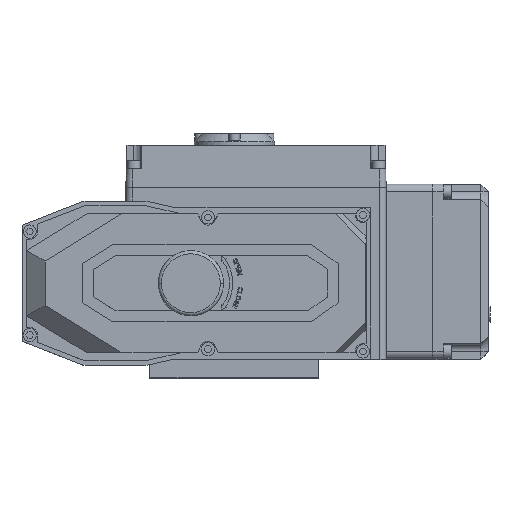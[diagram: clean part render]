
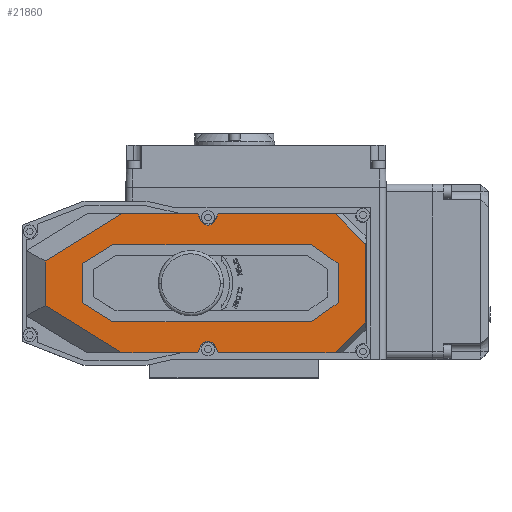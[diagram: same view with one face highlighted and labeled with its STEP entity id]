
A CAD part, top view. The second image highlights one B-rep face of the part: STEP entity #21860.
In plain terms, the highlighted planar face has unit normal (0, 0, 1).
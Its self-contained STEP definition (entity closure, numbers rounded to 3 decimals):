
#16430=DIRECTION('',(0.,-1.,0.));
#16431=VECTOR('',#16430,25.343);
#16432=CARTESIAN_POINT('',(-98.082,12.671,26.));
#16433=LINE('',#16432,#16431);
#16434=DIRECTION('',(0.852,-0.524,0.));
#16435=VECTOR('',#16434,23.191);
#16436=CARTESIAN_POINT('',(-98.082,-12.671,26.));
#16437=LINE('',#16436,#16435);
#16438=DIRECTION('',(1.,0.,0.));
#16439=VECTOR('',#16438,127.974);
#16440=CARTESIAN_POINT('',(-78.332,-24.825,26.));
#16441=LINE('',#16440,#16439);
#16442=DIRECTION('',(0.819,0.574,0.));
#16443=VECTOR('',#16442,21.19);
#16444=CARTESIAN_POINT('',(49.642,-24.825,26.));
#16445=LINE('',#16444,#16443);
#16446=DIRECTION('',(0.,1.,0.));
#16447=VECTOR('',#16446,25.343);
#16448=CARTESIAN_POINT('',(67.,-12.671,26.));
#16449=LINE('',#16448,#16447);
#16450=DIRECTION('',(-0.819,0.574,0.));
#16451=VECTOR('',#16450,21.19);
#16452=CARTESIAN_POINT('',(67.,12.671,26.));
#16453=LINE('',#16452,#16451);
#16454=DIRECTION('',(-1.,0.,0.));
#16455=VECTOR('',#16454,127.974);
#16456=CARTESIAN_POINT('',(49.642,24.825,26.));
#16457=LINE('',#16456,#16455);
#16458=DIRECTION('',(-0.852,-0.524,0.));
#16459=VECTOR('',#16458,23.191);
#16460=CARTESIAN_POINT('',(-78.332,24.825,26.));
#16461=LINE('',#16460,#16459);
#16462=DIRECTION('',(-0.423,-0.906,0.));
#16463=VECTOR('',#16462,4.897);
#16464=CARTESIAN_POINT('',(-10.399,44.825,26.));
#16465=LINE('',#16464,#16463);
#16466=DIRECTION('',(1.,0.,0.));
#16467=VECTOR('',#16466,75.426);
#16468=CARTESIAN_POINT('',(-10.399,44.825,26.));
#16469=LINE('',#16468,#16467);
#16470=DIRECTION('',(-0.707,0.707,0.));
#16471=VECTOR('',#16470,27.999);
#16472=CARTESIAN_POINT('',(84.825,25.027,26.));
#16473=LINE('',#16472,#16471);
#16474=DIRECTION('',(0.,1.,0.));
#16475=VECTOR('',#16474,50.054);
#16476=CARTESIAN_POINT('',(84.825,-25.027,26.));
#16477=LINE('',#16476,#16475);
#16478=DIRECTION('',(0.707,0.707,0.));
#16479=VECTOR('',#16478,27.999);
#16480=CARTESIAN_POINT('',(65.027,-44.825,26.));
#16481=LINE('',#16480,#16479);
#16482=DIRECTION('',(-1.,0.,0.));
#16483=VECTOR('',#16482,75.426);
#16484=CARTESIAN_POINT('',(65.027,-44.825,26.));
#16485=LINE('',#16484,#16483);
#16486=DIRECTION('',(-0.423,0.906,0.));
#16487=VECTOR('',#16486,4.897);
#16488=CARTESIAN_POINT('',(-10.399,-44.825,26.));
#16489=LINE('',#16488,#16487);
#16490=CARTESIAN_POINT('',(-17.,-42.5,26.));
#16491=DIRECTION('',(0.,0.,1.));
#16492=DIRECTION('',(0.906,0.423,0.));
#16493=AXIS2_PLACEMENT_3D('',#16490,#16491,#16492);
#16495=DIRECTION('',(0.423,0.906,0.));
#16496=VECTOR('',#16495,4.897);
#16497=CARTESIAN_POINT('',(-23.601,-44.825,26.));
#16498=LINE('',#16497,#16496);
#16499=DIRECTION('',(-1.,0.,0.));
#16500=VECTOR('',#16499,48.943);
#16501=CARTESIAN_POINT('',(-23.601,-44.825,26.));
#16502=LINE('',#16501,#16500);
#16503=DIRECTION('',(0.852,-0.524,0.));
#16504=VECTOR('',#16503,58.166);
#16505=CARTESIAN_POINT('',(-122.082,-14.341,26.));
#16506=LINE('',#16505,#16504);
#16507=DIRECTION('',(0.,-1.,0.));
#16508=VECTOR('',#16507,28.681);
#16509=CARTESIAN_POINT('',(-122.082,14.341,26.));
#16510=LINE('',#16509,#16508);
#16511=DIRECTION('',(-0.852,-0.524,0.));
#16512=VECTOR('',#16511,58.166);
#16513=CARTESIAN_POINT('',(-72.544,44.825,26.));
#16514=LINE('',#16513,#16512);
#16515=DIRECTION('',(1.,0.,0.));
#16516=VECTOR('',#16515,48.943);
#16517=CARTESIAN_POINT('',(-72.544,44.825,26.));
#16518=LINE('',#16517,#16516);
#16519=DIRECTION('',(0.423,-0.906,0.));
#16520=VECTOR('',#16519,4.897);
#16521=CARTESIAN_POINT('',(-23.601,44.825,26.));
#16522=LINE('',#16521,#16520);
#16523=CARTESIAN_POINT('',(-17.,42.5,26.));
#16524=DIRECTION('',(0.,0.,1.));
#16525=DIRECTION('',(-0.906,-0.423,0.));
#16526=AXIS2_PLACEMENT_3D('',#16523,#16524,#16525);
#19996=CARTESIAN_POINT('',(-122.082,14.341,26.));
#19997=CARTESIAN_POINT('',(-122.082,-14.341,26.));
#19998=VERTEX_POINT('',#19996);
#19999=VERTEX_POINT('',#19997);
#20001=CARTESIAN_POINT('',(-72.544,-44.825,26.));
#20003=VERTEX_POINT('',#20001);
#20004=CARTESIAN_POINT('',(-72.544,44.825,26.));
#20006=VERTEX_POINT('',#20004);
#20008=CARTESIAN_POINT('',(65.027,-44.825,26.));
#20009=CARTESIAN_POINT('',(84.825,-25.027,26.));
#20010=VERTEX_POINT('',#20008);
#20011=VERTEX_POINT('',#20009);
#20012=CARTESIAN_POINT('',(84.825,25.027,26.));
#20013=CARTESIAN_POINT('',(65.027,44.825,26.));
#20014=VERTEX_POINT('',#20012);
#20015=VERTEX_POINT('',#20013);
#20028=CARTESIAN_POINT('',(-98.082,12.671,26.));
#20029=CARTESIAN_POINT('',(-98.082,-12.671,26.));
#20030=VERTEX_POINT('',#20028);
#20031=VERTEX_POINT('',#20029);
#20032=CARTESIAN_POINT('',(-78.332,-24.825,26.));
#20033=VERTEX_POINT('',#20032);
#20034=CARTESIAN_POINT('',(49.642,-24.825,26.));
#20035=VERTEX_POINT('',#20034);
#20036=CARTESIAN_POINT('',(49.642,24.825,26.));
#20037=CARTESIAN_POINT('',(-78.332,24.825,26.));
#20038=VERTEX_POINT('',#20036);
#20039=VERTEX_POINT('',#20037);
#21088=CARTESIAN_POINT('',(67.,-12.671,26.));
#21089=VERTEX_POINT('',#21088);
#21090=CARTESIAN_POINT('',(67.,12.671,26.));
#21091=VERTEX_POINT('',#21090);
#21164=CARTESIAN_POINT('',(-10.399,44.825,26.));
#21165=CARTESIAN_POINT('',(-12.468,40.387,26.));
#21166=VERTEX_POINT('',#21164);
#21167=VERTEX_POINT('',#21165);
#21168=CARTESIAN_POINT('',(-23.601,44.825,26.));
#21169=CARTESIAN_POINT('',(-21.532,40.387,26.));
#21170=VERTEX_POINT('',#21168);
#21171=VERTEX_POINT('',#21169);
#21172=CARTESIAN_POINT('',(-12.468,-40.387,26.));
#21173=CARTESIAN_POINT('',(-21.532,-40.387,26.));
#21174=VERTEX_POINT('',#21172);
#21175=VERTEX_POINT('',#21173);
#21176=CARTESIAN_POINT('',(-23.601,-44.825,26.));
#21177=VERTEX_POINT('',#21176);
#21178=CARTESIAN_POINT('',(-10.399,-44.825,26.));
#21179=VERTEX_POINT('',#21178);
#21809=CARTESIAN_POINT('',(0.,0.,26.));
#21810=DIRECTION('',(0.,0.,1.));
#21811=DIRECTION('',(1.,0.,0.));
#21812=AXIS2_PLACEMENT_3D('',#21809,#21810,#21811);
#21813=PLANE('',#21812);
#21814=ORIENTED_EDGE('',*,*,#21802,.F.);
#21815=ORIENTED_EDGE('',*,*,#21759,.T.);
#21817=ORIENTED_EDGE('',*,*,#21816,.F.);
#21819=ORIENTED_EDGE('',*,*,#21818,.F.);
#21821=ORIENTED_EDGE('',*,*,#21820,.F.);
#21823=ORIENTED_EDGE('',*,*,#21822,.T.);
#21824=ORIENTED_EDGE('',*,*,#21562,.T.);
#21826=ORIENTED_EDGE('',*,*,#21825,.T.);
#21828=ORIENTED_EDGE('',*,*,#21827,.F.);
#21830=ORIENTED_EDGE('',*,*,#21829,.T.);
#21832=ORIENTED_EDGE('',*,*,#21831,.F.);
#21834=ORIENTED_EDGE('',*,*,#21833,.F.);
#21836=ORIENTED_EDGE('',*,*,#21835,.F.);
#21837=ORIENTED_EDGE('',*,*,#21743,.T.);
#21838=ORIENTED_EDGE('',*,*,#21775,.T.);
#21839=ORIENTED_EDGE('',*,*,#21788,.T.);
#21840=EDGE_LOOP('',(#21814,#21815,#21817,#21819,#21821,#21823,#21824,#21826,
#21828,#21830,#21832,#21834,#21836,#21837,#21838,#21839));
#21841=FACE_OUTER_BOUND('',#21840,.F.);
#21843=ORIENTED_EDGE('',*,*,#21842,.T.);
#21845=ORIENTED_EDGE('',*,*,#21844,.T.);
#21847=ORIENTED_EDGE('',*,*,#21846,.T.);
#21849=ORIENTED_EDGE('',*,*,#21848,.T.);
#21851=ORIENTED_EDGE('',*,*,#21850,.T.);
#21853=ORIENTED_EDGE('',*,*,#21852,.T.);
#21855=ORIENTED_EDGE('',*,*,#21854,.T.);
#21857=ORIENTED_EDGE('',*,*,#21856,.T.);
#21858=EDGE_LOOP('',(#21843,#21845,#21847,#21849,#21851,#21853,#21855,#21857));
#21859=FACE_BOUND('',#21858,.F.);
#21860=ADVANCED_FACE('',(#21841,#21859),#21813,.T.);
#16494=CIRCLE('',#16493,5.);
#16527=CIRCLE('',#16526,5.);
#21562=EDGE_CURVE('',#21179,#21174,#16489,.T.);
#21743=EDGE_CURVE('',#20006,#21170,#16518,.T.);
#21759=EDGE_CURVE('',#21166,#20015,#16469,.T.);
#21775=EDGE_CURVE('',#21170,#21171,#16522,.T.);
#21788=EDGE_CURVE('',#21171,#21167,#16527,.T.);
#21802=EDGE_CURVE('',#21166,#21167,#16465,.T.);
#21816=EDGE_CURVE('',#20014,#20015,#16473,.T.);
#21818=EDGE_CURVE('',#20011,#20014,#16477,.T.);
#21820=EDGE_CURVE('',#20010,#20011,#16481,.T.);
#21822=EDGE_CURVE('',#20010,#21179,#16485,.T.);
#21825=EDGE_CURVE('',#21174,#21175,#16494,.T.);
#21827=EDGE_CURVE('',#21177,#21175,#16498,.T.);
#21829=EDGE_CURVE('',#21177,#20003,#16502,.T.);
#21831=EDGE_CURVE('',#19999,#20003,#16506,.T.);
#21833=EDGE_CURVE('',#19998,#19999,#16510,.T.);
#21835=EDGE_CURVE('',#20006,#19998,#16514,.T.);
#21842=EDGE_CURVE('',#20030,#20031,#16433,.T.);
#21844=EDGE_CURVE('',#20031,#20033,#16437,.T.);
#21846=EDGE_CURVE('',#20033,#20035,#16441,.T.);
#21848=EDGE_CURVE('',#20035,#21089,#16445,.T.);
#21850=EDGE_CURVE('',#21089,#21091,#16449,.T.);
#21852=EDGE_CURVE('',#21091,#20038,#16453,.T.);
#21854=EDGE_CURVE('',#20038,#20039,#16457,.T.);
#21856=EDGE_CURVE('',#20039,#20030,#16461,.T.);
